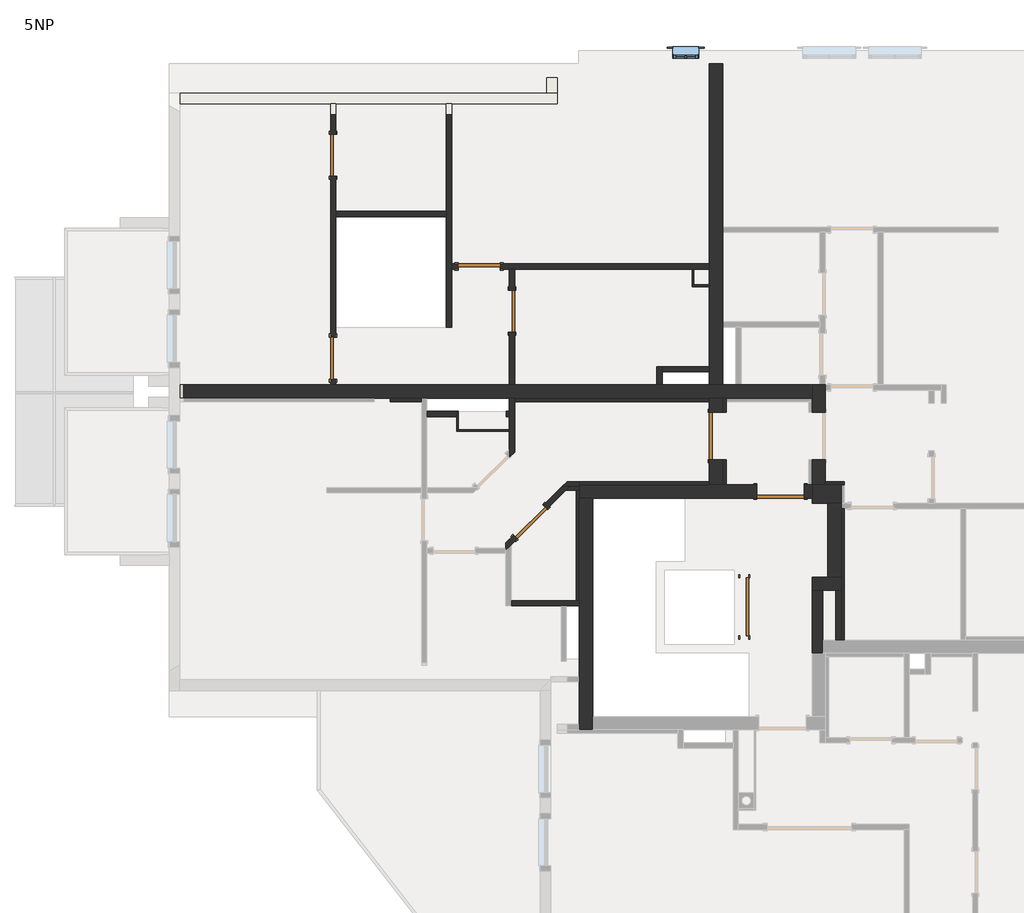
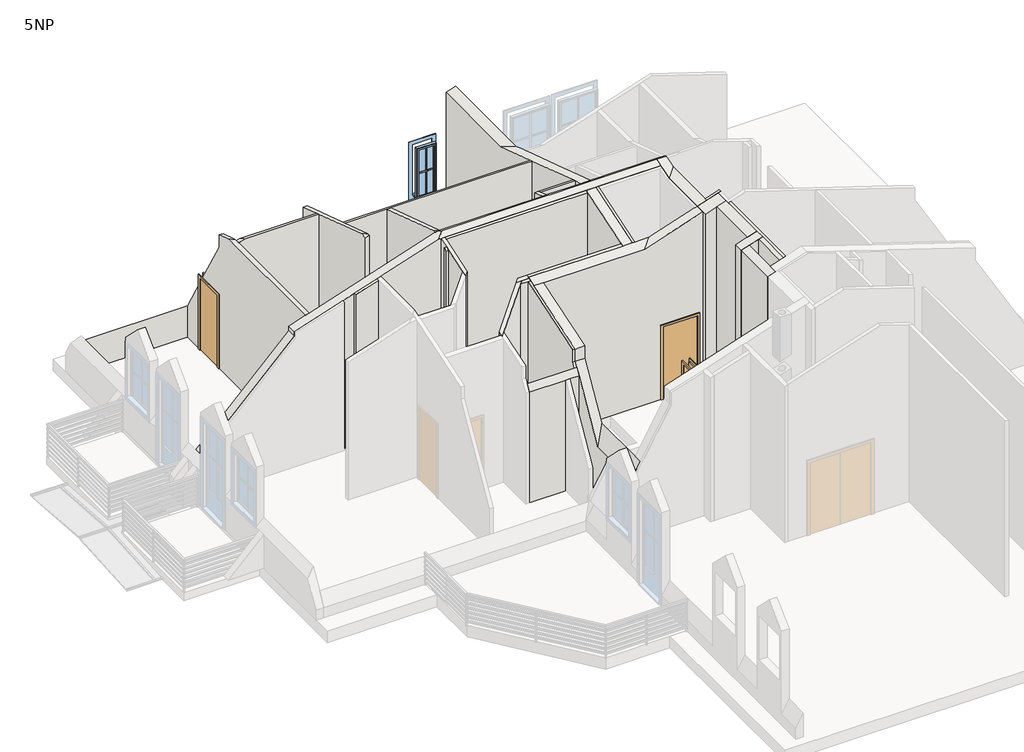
# One storey, part 3 of 4: 38 walls, 8 doors, 1 window.
"""IFC4 building model written with IfcOpenShell, lengths in millimetres."""

from ifc_helpers import new_model, si_unit, frame, origin, place, context, project, spatial, polyline, outline, extrude, faceted_brep, transform, mapped, element, save
from components import sd_1100x2000_1d62120a, sd_800x2000_6a16926d, sd_800x2000_80f4ff25, sd_900x2000_a6683946, sd_900x2000_4224ae2a, standard_window_with_mullions_cf772253

model = new_model("IFC4")

# Units and contexts
model_context = context("Model", 3, world=origin())
ifc_project = project(units=[si_unit("LENGTHUNIT", "METRE", prefix="MILLI")], contexts=[model_context])

# Site, building, storey
site = spatial("IfcSite", under=ifc_project)
building = spatial("IfcBuilding", under=site)
storey = spatial("IfcBuildingStorey", under=building, Name="5NP", Elevation=11800.0)

# Doors
placement = place(None, origin())
sd_1100x2000_shape = sd_1100x2000_1d62120a(model_context)
element("IfcDoor", 1, ObjectType="JednokridlePlne : SD 1100x2000", at=placement, inside=storey, context=model_context, shape_type="MappedRepresentation", body=[
    mapped(sd_1100x2000_shape, transform((277.8037835, 250.1290541, 11800.0), x_axis=(0.0, -1.0, 0.0), y_axis=(1.0, 0.0, 0.0), z_axis=(0.0, 0.0, 1.0))),
])
sd_800x2000_shape = sd_800x2000_6a16926d(model_context)
element("IfcDoor", 2, ObjectType="JednokridlePlne : SD 800x2000", at=placement, inside=storey, context=model_context, shape_type="MappedRepresentation", body=[
    mapped(sd_800x2000_shape, transform((-4137.1962165, 5871.7254016, 11800.0), x_axis=(0.0, 0.9999999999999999, 0.0), y_axis=(-0.9999999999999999, 0.0, 0.0), z_axis=(0.0, 0.0, 1.0))),
])
element("IfcDoor", 3, ObjectType="JednokridlePlne : SD 800x2000", at=placement, inside=storey, context=model_context, shape_type="MappedRepresentation", body=[
    mapped(sd_800x2000_shape, transform((-7537.1962165, 8831.4295669, 11800.0), x_axis=(0.0, -1.0, 0.0), y_axis=(1.0, 0.0, 0.0), z_axis=(0.0, 0.0, 1.0))),
])
sd_800x2000_2_shape = sd_800x2000_80f4ff25(model_context)
element("IfcDoor", 4, ObjectType="JednokridlePlne : SD 800x2000", at=placement, inside=storey, context=model_context, shape_type="MappedRepresentation", body=[
    mapped(sd_800x2000_2_shape, transform((-3790.7010875, 1863.413505, 11800.0), x_axis=(-0.7071067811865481, -0.7071067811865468, 0.0), y_axis=(0.7071067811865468, -0.7071067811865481, 0.0), z_axis=(0.0, 0.0, 1.0))),
])
element("IfcDoor", 5, ObjectType="JednokridlePlne : SD 800x2000", at=placement, inside=storey, context=model_context, shape_type="MappedRepresentation", body=[
    mapped(sd_800x2000_2_shape, transform((-7537.1962165, 4978.4889536, 11800.0), x_axis=(0.0, 1.0, 0.0), y_axis=(-1.0, 0.0, 0.0), z_axis=(0.0, 0.0, 1.0))),
])
element("IfcDoor", 6, ObjectType="JednokridlePlne : SD 800x2000", at=placement, inside=storey, context=model_context, shape_type="MappedRepresentation", body=[
    mapped(sd_800x2000_2_shape, transform((-4763.3256924, 6717.6290541, 11800.0), x_axis=(1.0, 0.0, 0.0), y_axis=(0.0, 1.0, 0.0), z_axis=(0.0, 0.0, 1.0))),
])
sd_900x2000_shape = sd_900x2000_a6683946(model_context)
element("IfcDoor", 7, ObjectType="JednokridlePlne : SD 900x2000", at=placement, inside=storey, context=model_context, shape_type="MappedRepresentation", body=[
    mapped(sd_900x2000_shape, transform((-262.1962165, 3497.5977832, 11800.0), x_axis=(0.0, -1.0, 0.0), y_axis=(1.0, 0.0, 0.0), z_axis=(0.0, 0.0, 1.0))),
])
sd_900x2000_2_shape = sd_900x2000_4224ae2a(model_context)
element("IfcDoor", 8, ObjectType="JednokridlePlne : SD 900x2000", at=placement, inside=storey, context=model_context, shape_type="MappedRepresentation", body=[
    mapped(sd_900x2000_2_shape, transform((965.3697901, 2442.6290541, 11800.0), x_axis=(-1.0, 0.0, 0.0), y_axis=(0.0, -1.0, 0.0), z_axis=(0.0, 0.0, 1.0))),
])

# Walls
element("IfcWall", 9, ObjectType="Exterior - 150+50mm", at=placement, inside=storey, context=model_context, shape_type="Brep", body=[
    faceted_brep([(-10456.4352243, 9807.6290541, 11800.0), (-7587.1962165, 9807.6290541, 11800.0), (-7487.1962165, 9807.6290541, 11800.0), (-5387.1962165, 9807.6290541, 11800.0), (-5287.1962165, 9807.6290541, 11800.0), (-3277.1962165, 9807.6290541, 11800.0), (-3277.1962165, 9807.6290541, 12667.9110615), (-5287.1962165, 9807.6290541, 12667.9110615), (-5387.1962165, 9807.6290541, 12667.9110615), (-7487.1962165, 9807.6290541, 12667.9110615), (-7587.1962165, 9807.6290541, 12667.9110615), (-10456.4352243, 9807.6290541, 12667.9110615), (-10456.4352243, 10007.6290541, 11800.0), (-10456.4352243, 10007.6290541, 12321.5009), (-3477.1962165, 10007.6290541, 12321.5009), (-3277.1962165, 10007.6290541, 12321.5009), (-3277.1962165, 10007.6290541, 11800.0), (-3477.1962165, 10007.6290541, 11800.0)], [[[0, 1, 2, 3, 4, 5, 6, 7, 8, 9, 10, 11]], [[12, 13, 14, 15, 16, 17]], [[5, 4, 3, 2, 1, 0, 12, 17, 16]], [[6, 5, 16, 15]], [[0, 11, 13, 12]], [[11, 10, 9, 8, 7, 6, 15, 14, 13]]]),
])
element("IfcWall", 10, ObjectType="Exterior - 150+50mm", at=placement, inside=storey, context=model_context, shape_type="SweptSolid", body=[
    extrude(outline(polyline([(10007.6290541, 11800.0), (10007.6290541, 12321.5009), (10308.7177391, 11800.0), (10007.6290541, 11800.0)])), frame((-3477.1962165, 0.0, 0.0), z_axis=(1.0, 0.0, 0.0), x_axis=(0.0, 1.0, 0.0)), (0.0, 0.0, 1.0), 200.0),
])
element("IfcWall", 11, ObjectType="Interior - 100mm", at=placement, inside=storey, context=model_context, shape_type="Brep", body=[
    faceted_brep([(-4187.1962165, 4217.6290541, 11800.0), (-4187.1962165, 3967.6290541, 11800.0), (-4187.1962165, 3867.6290541, 11800.0), (-4187.1962165, 3617.6290541, 11800.0), (-4187.1962165, 3587.6290541, 11800.0), (-4187.1962165, 3235.1475855, 11800.0), (-4187.1962165, 3094.8273477, 11800.0), (-4187.1962165, 3094.8273477, 16359.5045059), (-4187.1962165, 3235.1475855, 16405.097315), (-4187.1962165, 3867.6290541, 16610.6030016), (-4187.1962165, 3967.6290541, 16643.0949712), (-4187.1962165, 4217.6290541, 16724.3248953), (-4087.1962165, 4217.6290541, 11800.0), (-4087.1962165, 4217.6290541, 16724.3248953), (-4087.1962165, 4152.6290541, 16703.205115), (-4087.1962165, 3193.2639727, 16391.4885042), (-4087.1962165, 3193.2639727, 11800.0), (-4087.1962165, 4152.6290541, 11800.0)], [[[0, 1, 2, 3, 4, 5, 6, 7, 8, 9, 10, 11]], [[12, 13, 14, 15, 16, 17]], [[6, 5, 4, 3, 2, 1, 0, 12, 17, 16]], [[7, 6, 16, 15]], [[0, 11, 13, 12]], [[11, 10, 9, 8, 7, 15, 14, 13]]]),
])
element("IfcWall", 12, ObjectType="Interior - 100mm", at=placement, inside=storey, context=model_context, shape_type="Brep", body=[
    faceted_brep([(-2857.1962165, 2632.6290541, 11800.0), (-3092.1962165, 2632.6290541, 11800.0), (-3092.1962165, 2632.6290541, 16209.3271768), (-2857.1962165, 2632.6290541, 16209.3271768), (-2857.1962165, 2532.6290541, 11800.0), (-2857.1962165, 2532.6290541, 16176.8352071), (-3050.7748603, 2532.6290541, 16176.8352071), (-3192.1962165, 2532.6290541, 16176.8352071), (-3192.1962165, 2532.6290541, 11800.0), (-3050.7748603, 2532.6290541, 11800.0)], [[[0, 1, 2, 3]], [[4, 5, 6, 7, 8, 9]], [[1, 0, 4, 9, 8]], [[2, 1, 8, 7]], [[0, 3, 5, 4]], [[3, 2, 7, 6, 5]]]),
])
element("IfcWall", 13, ObjectType="Interior - 100mm", at=placement, inside=storey, context=model_context, shape_type="Brep", body=[
    faceted_brep([(-4108.899139, 1615.9261316, 13800.0), (-4108.899139, 1615.9261316, 11800.0), (-4257.1962165, 1467.6290541, 11800.0), (-4257.1962165, 1467.6290541, 15830.7957306), (-3192.1962165, 2532.6290541, 16176.8352071), (-3192.1962165, 2532.6290541, 11800.0), (-3543.2137141, 2181.6115566, 11800.0), (-3543.2137141, 2181.6115566, 13800.0), (-4257.1962165, 1326.2076978, 11800.0), (-4157.1962165, 1426.2076978, 11800.0), (-4038.1884609, 1545.2154535, 11800.0), (-4038.1884609, 1545.2154535, 13800.0), (-3472.5030359, 2110.9008784, 13800.0), (-3472.5030359, 2110.9008784, 11800.0), (-3115.7748603, 2467.6290541, 11800.0), (-3050.7748603, 2532.6290541, 11800.0), (-3050.7748603, 2532.6290541, 16176.8352071), (-3115.7748603, 2467.6290541, 16155.7154269), (-4157.1962165, 1426.2076978, 15817.3371162), (-4257.1962165, 1326.2076978, 15784.8451465), (-4257.1962165, 1367.6290541, 11800.0), (-4257.1962165, 1367.6290541, 15798.303761)], [[[0, 1, 2, 3, 4, 5, 6, 7]], [[8, 9, 10, 11, 12, 13, 14, 15, 16, 17, 18, 19]], [[2, 1, 10, 9, 8, 20]], [[6, 5, 15, 14, 13]], [[3, 2, 20, 8, 19, 21]], [[5, 4, 16, 15]], [[4, 3, 21, 19, 18, 17, 16]], [[11, 10, 1, 0]], [[12, 11, 0, 7]], [[13, 12, 7, 6]]]),
])
element("IfcWall", 14, ObjectType="Interior - 100mm", at=placement, inside=storey, context=model_context, shape_type="Brep", body=[
    faceted_brep([(-4157.1962165, 267.6290541, 11800.0), (-3207.1962165, 267.6290541, 11800.0), (-3107.1962165, 267.6290541, 11800.0), (-2857.1962165, 267.6290541, 11800.0), (-2857.1962165, 267.6290541, 14861.0362405), (-3107.1962165, 267.6290541, 14861.0362405), (-3207.1962165, 267.6290541, 14861.0362405), (-4157.1962165, 267.6290541, 14861.0362405), (-4157.1962165, 367.6290541, 11800.0), (-4157.1962165, 367.6290541, 15034.2413213), (-2922.1962165, 367.6290541, 15034.2413213), (-2857.1962165, 367.6290541, 15034.2413213), (-2857.1962165, 367.6290541, 11800.0), (-2922.1962165, 367.6290541, 11800.0)], [[[0, 1, 2, 3, 4, 5, 6, 7]], [[8, 9, 10, 11, 12, 13]], [[3, 2, 1, 0, 8, 13, 12]], [[0, 7, 9, 8]], [[4, 3, 12, 11]], [[7, 6, 5, 4, 11, 10, 9]]]),
])
element("IfcWall", 15, ObjectType="Interior - 100mm", at=placement, inside=storey, context=model_context, shape_type="SweptSolid", body=[
    extrude(outline(polyline([(3967.6290541, 16643.0949712), (3967.6290541, 11800.0), (3867.6290541, 11800.0), (3867.6290541, 16610.6030016), (3967.6290541, 16643.0949712)])), frame((-4252.0439618, 0.0, 0.0), z_axis=(1.0, 0.0, 0.0), x_axis=(0.0, 1.0, 0.0)), (0.0, 0.0, 1.0), 64.8477452),
])
element("IfcWall", 16, ObjectType="Interior - 100mm", at=placement, inside=storey, context=model_context, shape_type="Brep", body=[
    faceted_brep([(-7587.1962165, 9807.6290541, 12667.9110615), (-7587.1962165, 9807.6290541, 11800.0), (-7587.1962165, 9231.4295669, 11800.0), (-7587.1962165, 9231.4295669, 13665.9178486), (-7487.1962165, 9807.6290541, 11800.0), (-7487.1962165, 9807.6290541, 12667.9110615), (-7487.1962165, 9231.4295669, 13665.9178486), (-7487.1962165, 9231.4295669, 11800.0)], [[[0, 1, 2, 3]], [[4, 5, 6, 7]], [[1, 4, 7, 2]], [[1, 0, 5, 4]], [[5, 0, 3, 6]], [[3, 2, 7, 6]]]),
    faceted_brep([(-7587.1962165, 4467.6290541, 11800.0), (-7587.1962165, 4467.6290541, 15637.1643294), (-7587.1962165, 7937.3638174, 15637.1643294), (-7587.1962165, 8372.0175181, 15495.936781), (-7587.1962165, 8372.0175181, 15154.4631818), (-7587.1962165, 9154.0172007, 13800.0), (-7587.1962165, 8431.4295669, 13800.0), (-7587.1962165, 8431.4295669, 11800.0), (-7587.1962165, 5378.4889536, 11800.0), (-7587.1962165, 5378.4889536, 13800.0), (-7587.1962165, 4578.4889536, 13800.0), (-7587.1962165, 4578.4889536, 11800.0), (-7487.1962165, 4467.6290541, 15669.6562991), (-7487.1962165, 4467.6290541, 11800.0), (-7487.1962165, 4578.4889536, 11800.0), (-7487.1962165, 4578.4889536, 13800.0), (-7487.1962165, 5378.4889536, 13800.0), (-7487.1962165, 5378.4889536, 11800.0), (-7487.1962165, 7667.6290541, 11800.0), (-7487.1962165, 7767.6290541, 11800.0), (-7487.1962165, 8431.4295669, 11800.0), (-7487.1962165, 8431.4295669, 13800.0), (-7487.1962165, 9154.0172007, 13800.0), (-7487.1962165, 8372.0175181, 15154.4631818), (-7487.1962165, 8372.0175181, 15495.936781), (-7487.1962165, 7837.3638174, 15669.6562991), (-7487.1962165, 7767.6290541, 15669.6562991), (-7487.1962165, 7667.6290541, 15669.6562991)], [[[0, 1, 2, 3, 4, 5, 6, 7, 8, 9, 10, 11]], [[12, 13, 14, 15, 16, 17, 18, 19, 20, 21, 22, 23, 24, 25, 26, 27]], [[13, 0, 11, 14]], [[17, 8, 7, 20, 19, 18]], [[1, 0, 13, 12]], [[4, 3, 24, 23]], [[4, 23, 22, 5]], [[24, 3, 2, 25]], [[1, 12, 27, 26, 25, 2]], [[9, 8, 17, 16]], [[10, 9, 16, 15]], [[11, 10, 15, 14]], [[6, 21, 20, 7]], [[21, 6, 5, 22]]]),
])
element("IfcWall", 17, ObjectType="Interior - 100mm", at=placement, inside=storey, context=model_context, shape_type="Brep", body=[
    faceted_brep([(-7487.1962165, 7667.6290541, 11800.0), (-5387.1962165, 7667.6290541, 11800.0), (-5387.1962165, 7667.6290541, 15724.8064668), (-7317.4614532, 7667.6290541, 15724.8064668), (-7487.1962165, 7667.6290541, 15669.6562991), (-7487.1962165, 7767.6290541, 11800.0), (-7487.1962165, 7767.6290541, 15669.6562991), (-7417.4614532, 7767.6290541, 15692.3144972), (-5387.1962165, 7767.6290541, 15692.3144972), (-5387.1962165, 7767.6290541, 11800.0)], [[[0, 1, 2, 3, 4]], [[5, 6, 7, 8, 9]], [[1, 0, 5, 9]], [[0, 4, 6, 5]], [[2, 1, 9, 8]], [[4, 3, 7, 6]], [[3, 2, 8, 7]]]),
])
element("IfcWall", 18, ObjectType="Interior - 100mm", at=placement, inside=storey, context=model_context, shape_type="Brep", body=[
    faceted_brep([(-5287.1962165, 5567.6290541, 11800.0), (-5287.1962165, 6667.6290541, 11800.0), (-5287.1962165, 6767.6290541, 11800.0), (-5287.1962165, 9807.6290541, 11800.0), (-5287.1962165, 9807.6290541, 12667.9110615), (-5287.1962165, 8372.0175181, 15154.4631818), (-5287.1962165, 8372.0175181, 15495.936781), (-5287.1962165, 6767.6290541, 16017.2341934), (-5287.1962165, 6667.6290541, 16049.726163), (-5287.1962165, 5637.3638174, 16384.4796308), (-5287.1962165, 5567.6290541, 16384.4796308), (-5387.1962165, 5567.6290541, 11800.0), (-5387.1962165, 5567.6290541, 16351.9876611), (-5387.1962165, 5737.3638174, 16351.9876611), (-5387.1962165, 7667.6290541, 15724.8064668), (-5387.1962165, 7767.6290541, 15692.3144972), (-5387.1962165, 8372.0175181, 15495.936781), (-5387.1962165, 8372.0175181, 15154.4631818), (-5387.1962165, 9807.6290541, 12667.9110615), (-5387.1962165, 9807.6290541, 11800.0), (-5387.1962165, 7767.6290541, 11800.0), (-5387.1962165, 7667.6290541, 11800.0)], [[[0, 1, 2, 3, 4, 5, 6, 7, 8, 9, 10]], [[11, 12, 13, 14, 15, 16, 17, 18, 19, 20, 21]], [[3, 2, 1, 0, 11, 21, 20, 19]], [[0, 10, 12, 11]], [[4, 3, 19, 18]], [[5, 17, 16, 6]], [[5, 4, 18, 17]], [[10, 9, 13, 12]], [[9, 8, 7, 6, 16, 15, 14, 13]]]),
])
element("IfcWall", 19, ObjectType="Interior - 100mm", at=placement, inside=storey, context=model_context, shape_type="Brep", body=[
    faceted_brep([(-4363.3256924, 6667.6290541, 13800.0), (-4363.3256924, 6667.6290541, 11800.0), (-4187.1962165, 6667.6290541, 11800.0), (-4087.1962165, 6667.6290541, 11800.0), (-717.1962165, 6667.6290541, 11800.0), (-687.1962165, 6667.6290541, 11800.0), (-387.1962165, 6667.6290541, 11800.0), (-387.1962165, 6667.6290541, 16049.726163), (-687.1962165, 6667.6290541, 16049.726163), (-4087.1962165, 6667.6290541, 16049.726163), (-4187.1962165, 6667.6290541, 16049.726163), (-5287.1962165, 6667.6290541, 16049.726163), (-5287.1962165, 6667.6290541, 11800.0), (-5163.3256924, 6667.6290541, 11800.0), (-5163.3256924, 6667.6290541, 13800.0), (-387.1962165, 6767.6290541, 11800.0), (-4363.3256924, 6767.6290541, 11800.0), (-4363.3256924, 6767.6290541, 13800.0), (-5163.3256924, 6767.6290541, 13800.0), (-5163.3256924, 6767.6290541, 11800.0), (-5287.1962165, 6767.6290541, 11800.0), (-5287.1962165, 6767.6290541, 16017.2341934), (-387.1962165, 6767.6290541, 16017.2341934)], [[[0, 1, 2, 3, 4, 5, 6, 7, 8, 9, 10, 11, 12, 13, 14]], [[15, 16, 17, 18, 19, 20, 21, 22]], [[6, 5, 4, 3, 2, 1, 16, 15]], [[13, 12, 20, 19]], [[12, 11, 21, 20]], [[7, 6, 15, 22]], [[11, 10, 9, 8, 7, 22, 21]], [[17, 16, 1, 0]], [[18, 17, 0, 14]], [[19, 18, 14, 13]]]),
])
element("IfcWall", 20, ObjectType="Interior - 100mm", at=placement, inside=storey, context=model_context, shape_type="Brep", body=[
    faceted_brep([(-4087.1962165, 6271.7254016, 13800.0), (-4087.1962165, 6271.7254016, 11800.0), (-4087.1962165, 6667.6290541, 11800.0), (-4087.1962165, 6667.6290541, 16049.726163), (-4087.1962165, 4467.6290541, 16764.5494947), (-4087.1962165, 4467.6290541, 11800.0), (-4087.1962165, 5471.7254016, 11800.0), (-4087.1962165, 5471.7254016, 13800.0), (-4187.1962165, 6667.6290541, 11800.0), (-4187.1962165, 6271.7254016, 11800.0), (-4187.1962165, 6271.7254016, 13800.0), (-4187.1962165, 5471.7254016, 13800.0), (-4187.1962165, 5471.7254016, 11800.0), (-4187.1962165, 4467.6290541, 11800.0), (-4187.1962165, 4467.6290541, 16741.8912966), (-4187.1962165, 4537.3638174, 16741.8912966), (-4187.1962165, 6667.6290541, 16049.726163), (-4117.4614532, 4467.6290541, 16764.5494947)], [[[0, 1, 2, 3, 4, 5, 6, 7]], [[8, 9, 10, 11, 12, 13, 14, 15, 16]], [[2, 1, 9, 8]], [[6, 5, 13, 12]], [[5, 4, 17, 14, 13]], [[3, 2, 8, 16]], [[4, 3, 16, 15, 17]], [[15, 14, 17]], [[10, 9, 1, 0]], [[11, 10, 0, 7]], [[12, 11, 7, 6]]]),
])
element("IfcWall", 21, ObjectType="Interior - 100mm", at=placement, inside=storey, context=model_context, shape_type="Brep", body=[
    faceted_brep([(-1287.1962165, 4467.6290541, 11800.0), (-1287.1962165, 4717.6290541, 11800.0), (-1287.1962165, 4817.6290541, 11800.0), (-1287.1962165, 4817.6290541, 16650.8276011), (-1287.1962165, 4717.6290541, 16683.3195707), (-1287.1962165, 4467.6290541, 16764.5494947), (-1387.1962165, 4467.6290541, 11800.0), (-1387.1962165, 4467.6290541, 16764.5494947), (-1387.1962165, 4817.6290541, 16650.8276011), (-1387.1962165, 4817.6290541, 11800.0)], [[[0, 1, 2, 3, 4, 5]], [[6, 7, 8, 9]], [[2, 1, 0, 6, 9]], [[3, 2, 9, 8]], [[0, 5, 7, 6]], [[5, 4, 3, 8, 7]]]),
])
element("IfcWall", 22, ObjectType="Interior - 100mm", at=placement, inside=storey, context=model_context, shape_type="SweptSolid", body=[
    extrude(outline(polyline([(4717.6290541, 11800.0), (4717.6290541, 16683.3195707), (4817.6290541, 16650.8276011), (4817.6290541, 11800.0), (4717.6290541, 11800.0)])), frame((-1287.1962165, 0.0, 0.0), z_axis=(1.0, 0.0, 0.0), x_axis=(0.0, 1.0, 0.0)), (0.0, 0.0, 1.0), 900.0),
])
element("IfcWall", 23, ObjectType="Interior - 100mm", at=placement, inside=storey, context=model_context, shape_type="SweptSolid", body=[
    extrude(outline(polyline([(16748.3035099, 2012.8037835), (11800.0, 2012.8037835), (11800.0, 2112.8037835), (16780.7954795, 2112.8037835), (16748.3035099, 2012.8037835)])), frame((0.0, -382.3709459, 0.0), z_axis=(0.0, 1.0, 0.0), x_axis=(0.0, 0.0, 1.0)), (0.0, 0.0, 1.0), 950.0),
])
element("IfcWall", 24, ObjectType="Interior - 100mm", at=placement, inside=storey, context=model_context, shape_type="SweptSolid", body=[
    extrude(outline(polyline([(-5187.1962165, 3867.6290541), (-5757.1962165, 3867.6290541), (-5757.1962165, 3967.6290541), (-5187.1962165, 3967.6290541), (-5187.1962165, 3867.6290541)])), frame((0.0, 0.0, 11800.0), z_axis=(0.0, 0.0, 1.0), x_axis=(1.0, 0.0, 0.0)), (0.0, 0.0, 1.0), 2950.0),
])
element("IfcWall", 25, ObjectType="Interior - 200mm", at=placement, inside=storey, context=model_context, shape_type="Brep", body=[
    faceted_brep([(1762.8059596, -632.3709459, 11800.0), (1762.8055844, -382.3709459, 11800.0), (1762.8041587, 567.6290541, 11800.0), (1762.8041587, 567.6290541, 16667.0737078), (1762.8055844, -382.3709459, 16667.074171), (1762.8059596, -632.3709459, 16667.0742929), (1562.8059596, -632.3709459, 11800.0), (1562.8059596, -632.3709459, 16602.0903537), (1562.8041587, 567.6290541, 16602.0897685), (1562.8041587, 567.6290541, 11800.0)], [[[0, 1, 2, 3, 4, 5]], [[6, 7, 8, 9]], [[2, 1, 0, 6, 9]], [[0, 5, 7, 6]], [[3, 2, 9, 8]], [[5, 4, 3, 8, 7]]]),
])
element("IfcWall", 26, ObjectType="Interior - 250mm", at=placement, inside=storey, context=model_context, shape_type="Brep", body=[
    faceted_brep([(-2857.1962165, 2317.6290541, 11800.0), (-2607.1962165, 2317.6290541, 11800.0), (515.3697901, 2317.6290541, 11800.0), (515.3697901, 2317.6290541, 13800.0), (1415.3697901, 2317.6290541, 13800.0), (1415.3697901, 2317.6290541, 11800.0), (1562.8037835, 2317.6290541, 11800.0), (1562.8037835, 2317.6290541, 16602.0896466), (39.0051959, 2317.6290541, 16106.9774724), (-2607.1962165, 2317.6290541, 16106.9774724), (-2857.1962165, 2317.6290541, 16106.9774724), (515.3697901, 2567.6290541, 13800.0), (515.3697901, 2567.6290541, 11800.0), (-72.1962165, 2567.6290541, 11800.0), (-137.1962165, 2567.6290541, 11800.0), (-387.1962165, 2567.6290541, 11800.0), (-2857.1962165, 2567.6290541, 11800.0), (-2857.1962165, 2567.6290541, 16188.2073965), (-387.1962165, 2567.6290541, 16188.2073965), (-137.1962165, 2567.6290541, 16188.2073965), (-72.1962165, 2567.6290541, 16188.2073965), (289.0051959, 2567.6290541, 16188.2073965), (1497.8037835, 2567.6290541, 16580.9698664), (1562.8037835, 2567.6290541, 16602.0896466), (1562.8037835, 2567.6290541, 11800.0), (1497.8037835, 2567.6290541, 11800.0), (1415.3697901, 2567.6290541, 11800.0), (1415.3697901, 2567.6290541, 13800.0)], [[[0, 1, 2, 3, 4, 5, 6, 7, 8, 9, 10]], [[11, 12, 13, 14, 15, 16, 17, 18, 19, 20, 21, 22, 23, 24, 25, 26, 27]], [[16, 15, 14, 13, 12, 2, 1, 0]], [[26, 25, 24, 6, 5]], [[0, 10, 17, 16]], [[7, 6, 24, 23]], [[10, 9, 8, 21, 20, 19, 18, 17]], [[8, 7, 23, 22, 21]], [[3, 2, 12, 11]], [[4, 3, 11, 27]], [[5, 4, 27, 26]]]),
])
element("IfcWall", 27, ObjectType="Interior - 250mm", at=placement, inside=storey, context=model_context, shape_type="Brep", body=[
    faceted_brep([(-2857.1962165, 2317.6290541, 11800.0), (-2857.1962165, 367.6290541, 11800.0), (-2857.1962165, 267.6290541, 11800.0), (-2857.1962165, -732.3709459, 11800.0), (-2857.1962165, -1072.3709459, 11800.0), (-2857.1962165, -1172.3709459, 11800.0), (-2857.1962165, -1982.3709459, 11800.0), (-2857.1962165, -2082.3709459, 11800.0), (-2857.1962165, -2082.3709459, 13395.3724007), (-2857.1962165, -1982.3709459, 13395.3724007), (-2857.1962165, -1172.3709459, 13395.3724007), (-2857.1962165, -1072.3709459, 13395.3724007), (-2857.1962165, -578.5723584, 13395.3724007), (-2857.1962165, 267.6290541, 14861.0362405), (-2857.1962165, 367.6290541, 15034.2413213), (-2857.1962165, 437.0391776, 15154.4631818), (-2857.1962165, 437.0391776, 15495.936781), (-2857.1962165, 2317.6290541, 16106.9774724), (-2607.1962165, 2317.6290541, 11800.0), (-2607.1962165, 2317.6290541, 16106.9774724), (-2607.1962165, 437.0391776, 15495.936781), (-2607.1962165, 437.0391776, 15154.4631818), (-2607.1962165, -328.5723584, 13828.3851026), (-2607.1962165, -1832.3709459, 13828.3851026), (-2607.1962165, -2082.3709459, 13828.3851026), (-2607.1962165, -2082.3709459, 11800.0), (-2607.1962165, -1832.3709459, 11800.0)], [[[0, 1, 2, 3, 4, 5, 6, 7, 8, 9, 10, 11, 12, 13, 14, 15, 16, 17]], [[18, 19, 20, 21, 22, 23, 24, 25, 26]], [[7, 6, 5, 4, 3, 2, 1, 0, 18, 26, 25]], [[8, 7, 25, 24]], [[0, 17, 19, 18]], [[15, 21, 20, 16]], [[15, 14, 13, 12, 22, 21]], [[12, 11, 10, 9, 8, 24, 23, 22]], [[17, 16, 20, 19]]]),
])
element("IfcWall", 28, ObjectType="Interior - 250mm", at=placement, inside=storey, context=model_context, shape_type="Brep", body=[
    faceted_brep([(1562.8041587, 567.6290541, 11800.0), (1762.8041587, 567.6290541, 11800.0), (2012.8037835, 567.6290541, 11800.0), (2112.8037835, 567.6290541, 11800.0), (2112.8037835, 567.6290541, 16780.7954795), (2012.8037835, 567.6290541, 16748.3035099), (1762.8041587, 567.6290541, 16667.0737078), (1562.8041587, 567.6290541, 16602.0897685), (1562.8037835, 817.6290541, 11800.0), (1562.8037835, 817.6290541, 16602.0896466), (1862.8037835, 817.6290541, 16699.5655555), (2112.8037835, 817.6290541, 16780.7954795), (2112.8037835, 817.6290541, 11800.0), (1862.8037835, 817.6290541, 11800.0)], [[[0, 1, 2, 3, 4, 5, 6, 7]], [[8, 9, 10, 11, 12, 13]], [[3, 2, 1, 0, 8, 13, 12]], [[0, 7, 9, 8]], [[4, 3, 12, 11]], [[7, 6, 5, 4, 11, 10, 9]]]),
])
element("IfcWall", 29, ObjectType="Interior - 250mm", at=placement, inside=storey, context=model_context, shape_type="Brep", body=[
    faceted_brep([(2112.8037835, 817.6290541, 11800.0), (2112.8037835, 2116.2076978, 11800.0), (2112.8037835, 2216.2076978, 11800.0), (2112.8037835, 2217.6290541, 11800.0), (2112.8037835, 2217.6290541, 16780.7954795), (2112.8037835, 2216.2076978, 16780.7954795), (2112.8037835, 2116.2076978, 16780.7954795), (2112.8037835, 817.6290541, 16780.7954795), (1862.8037835, 817.6290541, 11800.0), (1862.8037835, 817.6290541, 16699.5655555), (1862.8037835, 2217.6290541, 16699.5655555), (1862.8037835, 2217.6290541, 11800.0)], [[[0, 1, 2, 3, 4, 5, 6, 7]], [[8, 9, 10, 11]], [[3, 2, 1, 0, 8, 11]], [[0, 7, 9, 8]], [[4, 3, 11, 10]], [[7, 6, 5, 4, 10, 9]]]),
])
element("IfcWall", 30, ObjectType="Interior - 250mm", at=placement, inside=storey, context=model_context, shape_type="Brep", body=[
    faceted_brep([(1812.8037835, 2567.6290541, 11800.0), (1812.8037835, 2632.6290541, 11800.0), (1812.8037835, 3047.5977832, 11800.0), (1812.8037835, 3047.5977832, 13800.0), (1812.8037835, 3947.5977832, 13800.0), (1812.8037835, 3947.5977832, 11800.0), (1812.8037835, 4367.6290541, 11800.0), (1812.8037835, 4467.6290541, 11800.0), (1812.8037835, 4467.6290541, 16764.5494947), (1812.8037835, 4404.5283479, 16785.052157), (1812.8037835, 4367.6290541, 16773.0628497), (1812.8037835, 4091.4276416, 16683.3195707), (1812.8037835, 2632.6290541, 16683.3195707), (1812.8037835, 2567.6290541, 16683.3195707), (1562.8037835, 3047.5977832, 13800.0), (1562.8037835, 3047.5977832, 11800.0), (1562.8037835, 2567.6290541, 11800.0), (1562.8037835, 2567.6290541, 16602.0896466), (1562.8037835, 3841.4276416, 16602.0896466), (1562.8037835, 4152.6290541, 16703.205115), (1562.8037835, 4217.6290541, 16724.3248953), (1562.8037835, 4404.5283479, 16785.052157), (1562.8037835, 4467.6290541, 16764.5494947), (1562.8037835, 4467.6290541, 11800.0), (1562.8037835, 4217.6290541, 11800.0), (1562.8037835, 4152.6290541, 11800.0), (1562.8037835, 3947.5977832, 11800.0), (1562.8037835, 3947.5977832, 13800.0), (1712.8037835, 4467.6290541, 11800.0), (1712.8037835, 4467.6290541, 16764.5494947)], [[[0, 1, 2, 3, 4, 5, 6, 7, 8, 9, 10, 11, 12, 13]], [[14, 15, 16, 17, 18, 19, 20, 21, 22, 23, 24, 25, 26, 27]], [[16, 15, 2, 1, 0]], [[26, 25, 24, 23, 28, 7, 6, 5]], [[8, 7, 28, 23, 22, 29]], [[0, 13, 17, 16]], [[13, 12, 11, 18, 17]], [[11, 10, 9, 21, 20, 19, 18]], [[9, 8, 29, 22, 21]], [[3, 2, 15, 14]], [[4, 3, 14, 27]], [[5, 4, 27, 26]]]),
])
element("IfcWall", 31, ObjectType="Interior - 250mm", at=placement, inside=storey, context=model_context, shape_type="Brep", body=[
    faceted_brep([(1562.8037835, 4467.6290541, 11800.0), (212.8037835, 4467.6290541, 11800.0), (112.8037835, 4467.6290541, 11800.0), (-137.1962165, 4467.6290541, 11800.0), (-387.1962165, 4467.6290541, 11800.0), (-1287.1962165, 4467.6290541, 11800.0), (-1387.1962165, 4467.6290541, 11800.0), (-4087.1962165, 4467.6290541, 11800.0), (-4187.1962165, 4467.6290541, 11800.0), (-7487.1962165, 4467.6290541, 11800.0), (-7587.1962165, 4467.6290541, 11800.0), (-10456.4352243, 4467.6290541, 11800.0), (-10456.4352243, 4467.6290541, 12930.7609923), (-8021.8499172, 4467.6290541, 15365.3462993), (-8021.8499172, 4467.6290541, 15495.936781), (-7587.1962165, 4467.6290541, 15637.1643294), (-7487.1962165, 4467.6290541, 15669.6562991), (-4187.1962165, 4467.6290541, 16741.8912966), (-4117.4614532, 4467.6290541, 16764.5494947), (-4087.1962165, 4467.6290541, 16764.5494947), (-1387.1962165, 4467.6290541, 16764.5494947), (-1287.1962165, 4467.6290541, 16764.5494947), (-387.1962165, 4467.6290541, 16764.5494947), (-137.1962165, 4467.6290541, 16764.5494947), (112.8037835, 4467.6290541, 16764.5494947), (212.8037835, 4467.6290541, 16764.5494947), (1562.8037835, 4467.6290541, 16764.5494947), (1562.8037835, 4217.6290541, 11800.0), (1562.8037835, 4217.6290541, 16724.3248953), (-72.1962165, 4217.6290541, 16724.3248953), (-137.1962165, 4217.6290541, 16724.3248953), (-387.1962165, 4217.6290541, 16724.3248953), (-4087.1962165, 4217.6290541, 16724.3248953), (-4187.1962165, 4217.6290541, 16724.3248953), (-4241.2600407, 4217.6290541, 16724.3248953), (-5757.1962165, 4217.6290541, 16231.7673735), (-5857.1962165, 4217.6290541, 16199.2754039), (-8021.8499172, 4217.6290541, 15495.936781), (-8021.8499172, 4217.6290541, 15365.3462993), (-10456.4352243, 4217.6290541, 12930.7609923), (-10456.4352243, 4217.6290541, 11800.0), (-5857.1962165, 4217.6290541, 11800.0), (-5757.1962165, 4217.6290541, 11800.0), (-4187.1962165, 4217.6290541, 11800.0), (-4087.1962165, 4217.6290541, 11800.0), (-387.1962165, 4217.6290541, 11800.0), (-137.1962165, 4217.6290541, 11800.0), (-72.1962165, 4217.6290541, 11800.0), (1562.8037835, 4404.5283479, 16785.052157), (-4054.360747, 4404.5283479, 16785.052157)], [[[0, 1, 2, 3, 4, 5, 6, 7, 8, 9, 10, 11, 12, 13, 14, 15, 16, 17, 18, 19, 20, 21, 22, 23, 24, 25, 26]], [[27, 28, 29, 30, 31, 32, 33, 34, 35, 36, 37, 38, 39, 40, 41, 42, 43, 44, 45, 46, 47]], [[11, 10, 9, 8, 7, 6, 5, 4, 3, 2, 1, 0, 27, 47, 46, 45, 44, 43, 42, 41, 40]], [[12, 11, 40, 39]], [[0, 26, 48, 28, 27]], [[13, 38, 37, 14]], [[13, 12, 39, 38]], [[26, 25, 24, 23, 22, 21, 20, 19, 18, 49, 48]], [[18, 17, 16, 15, 14, 37, 36, 35, 34, 49]], [[34, 33, 32, 31, 30, 29, 28, 48, 49]]]),
])
element("IfcWall", 32, ObjectType="Interior - 250mm", at=placement, inside=storey, context=model_context, shape_type="Brep", body=[
    faceted_brep([(-387.1962165, 3047.5977832, 13800.0), (-387.1962165, 3047.5977832, 11800.0), (-387.1962165, 2632.6290541, 11800.0), (-387.1962165, 2567.6290541, 11800.0), (-387.1962165, 2567.6290541, 16188.2073965), (-387.1962165, 2632.6290541, 16209.3271768), (-387.1962165, 4152.6290541, 16703.205115), (-387.1962165, 4217.6290541, 16724.3248953), (-387.1962165, 4217.6290541, 11800.0), (-387.1962165, 4152.6290541, 11800.0), (-387.1962165, 3947.5977832, 11800.0), (-387.1962165, 3947.5977832, 13800.0), (-137.1962165, 2567.6290541, 11800.0), (-137.1962165, 3047.5977832, 11800.0), (-137.1962165, 3047.5977832, 13800.0), (-137.1962165, 3947.5977832, 13800.0), (-137.1962165, 3947.5977832, 11800.0), (-137.1962165, 4217.6290541, 11800.0), (-137.1962165, 4217.6290541, 16724.3248953), (-137.1962165, 2567.6290541, 16188.2073965)], [[[0, 1, 2, 3, 4, 5, 6, 7, 8, 9, 10, 11]], [[12, 13, 14, 15, 16, 17, 18, 19]], [[3, 2, 1, 13, 12]], [[10, 9, 8, 17, 16]], [[4, 3, 12, 19]], [[8, 7, 18, 17]], [[7, 6, 5, 4, 19, 18]], [[14, 13, 1, 0]], [[15, 14, 0, 11]], [[16, 15, 11, 10]]]),
])
element("IfcWall", 33, ObjectType="Interior - 250mm", at=placement, inside=storey, context=model_context, shape_type="Brep", body=[
    faceted_brep([(-387.1962165, 10567.6290541, 11800.0), (-387.1962165, 6767.6290541, 11800.0), (-387.1962165, 6667.6290541, 11800.0), (-387.1962165, 6367.6290541, 11800.0), (-387.1962165, 6337.6290541, 11800.0), (-387.1962165, 4817.6290541, 11800.0), (-387.1962165, 4717.6290541, 11800.0), (-387.1962165, 4467.6290541, 11800.0), (-387.1962165, 4467.6290541, 16764.5494947), (-387.1962165, 4717.6290541, 16683.3195707), (-387.1962165, 4817.6290541, 16650.8276011), (-387.1962165, 6367.6290541, 16147.2020719), (-387.1962165, 6667.6290541, 16049.726163), (-387.1962165, 6767.6290541, 16017.2341934), (-387.1962165, 8087.6290541, 15588.3401944), (-387.1962165, 10567.6290541, 15588.3401944), (-137.1962165, 10567.6290541, 11800.0), (-137.1962165, 10567.6290541, 15669.5701184), (-137.1962165, 7837.6290541, 15669.5701184), (-137.1962165, 7467.6290541, 15789.790406), (-137.1962165, 7367.6290541, 15822.2823757), (-137.1962165, 5667.6290541, 16374.6458593), (-137.1962165, 5567.6290541, 16407.1378289), (-137.1962165, 4467.6290541, 16764.5494947), (-137.1962165, 4467.6290541, 11800.0), (-137.1962165, 5567.6290541, 11800.0), (-137.1962165, 5667.6290541, 11800.0), (-137.1962165, 7367.6290541, 11800.0), (-137.1962165, 7467.6290541, 11800.0)], [[[0, 1, 2, 3, 4, 5, 6, 7, 8, 9, 10, 11, 12, 13, 14, 15]], [[16, 17, 18, 19, 20, 21, 22, 23, 24, 25, 26, 27, 28]], [[7, 6, 5, 4, 3, 2, 1, 0, 16, 28, 27, 26, 25, 24]], [[8, 7, 24, 23]], [[0, 15, 17, 16]], [[15, 14, 18, 17]], [[14, 13, 12, 11, 10, 9, 8, 23, 22, 21, 20, 19, 18]]]),
])
element("IfcWall", 34, ObjectType="Interior - 300mm", at=placement, inside=storey, context=model_context, shape_type="Brep", body=[
    faceted_brep([(-387.1962165, 6367.6290541, 11800.0), (-687.1962165, 6367.6290541, 11800.0), (-717.1962165, 6367.6290541, 11800.0), (-717.1962165, 6367.6290541, 14750.0), (-687.1962165, 6367.6290541, 14750.0), (-387.1962165, 6367.6290541, 14750.0), (-387.1962165, 6337.6290541, 11800.0), (-387.1962165, 6337.6290541, 14750.0), (-717.1962165, 6337.6290541, 14750.0), (-717.1962165, 6337.6290541, 11800.0)], [[[0, 1, 2, 3, 4, 5]], [[6, 7, 8, 9]], [[2, 1, 0, 6, 9]], [[5, 4, 3, 8, 7]], [[3, 2, 9, 8]], [[0, 5, 7, 6]]]),
])
element("IfcWall", 35, ObjectType="Interior - 300mm", at=placement, inside=storey, context=model_context, shape_type="SweptSolid", body=[
    extrude(outline(polyline([(-687.1962165, 6667.6290541), (-687.1962165, 6367.6290541), (-717.1962165, 6367.6290541), (-717.1962165, 6667.6290541), (-687.1962165, 6667.6290541)])), frame((0.0, 0.0, 11800.0), z_axis=(0.0, 0.0, 1.0), x_axis=(1.0, 0.0, 0.0)), (0.0, 0.0, 1.0), 2950.0),
])
element("IfcWall", 36, ObjectType="Interior - 300mm", at=placement, inside=storey, context=model_context, shape_type="Brep", body=[
    faceted_brep([(-5187.1962165, 3967.6290541, 11800.0), (-5187.1962165, 3867.6290541, 11800.0), (-5187.1962165, 3587.6290541, 11800.0), (-5187.1962165, 3587.6290541, 14750.0), (-5187.1962165, 3867.6290541, 14750.0), (-5187.1962165, 3967.6290541, 14750.0), (-5157.1962165, 3967.6290541, 11800.0), (-5157.1962165, 3967.6290541, 14750.0), (-5157.1962165, 3617.6290541, 14750.0), (-5157.1962165, 3587.6290541, 14750.0), (-5157.1962165, 3587.6290541, 11800.0), (-5157.1962165, 3617.6290541, 11800.0)], [[[0, 1, 2, 3, 4, 5]], [[6, 7, 8, 9, 10, 11]], [[2, 1, 0, 6, 11, 10]], [[5, 4, 3, 9, 8, 7]], [[3, 2, 10, 9]], [[0, 5, 7, 6]]]),
])
element("IfcWall", 37, ObjectType="Interior - 300mm", at=placement, inside=storey, context=model_context, shape_type="SweptSolid", body=[
    extrude(outline(polyline([(-4187.1962165, 3587.6290541), (-5157.1962165, 3587.6290541), (-5157.1962165, 3617.6290541), (-4187.1962165, 3617.6290541), (-4187.1962165, 3587.6290541)])), frame((0.0, 0.0, 11800.0), z_axis=(0.0, 0.0, 1.0), x_axis=(1.0, 0.0, 0.0)), (0.0, 0.0, 1.0), 2950.0),
])
element("IfcWall", 38, ObjectType="Interior - 350mm", at=placement, inside=storey, context=model_context, shape_type="Brep", body=[
    faceted_brep([(2112.8037835, 2567.6290541, 11800.0), (1812.8037835, 2567.6290541, 11800.0), (1562.8037835, 2567.6290541, 11800.0), (1562.8037835, 2567.6290541, 16602.0896466), (1812.8037835, 2567.6290541, 16683.3195707), (2112.8037835, 2567.6290541, 16780.7954795), (2112.8037835, 2217.6290541, 11800.0), (2112.8037835, 2217.6290541, 16780.7954795), (1862.8037835, 2217.6290541, 16699.5655555), (1562.8037835, 2217.6290541, 16602.0896466), (1562.8037835, 2217.6290541, 11800.0), (1862.8037835, 2217.6290541, 11800.0), (1562.8037835, 2317.6290541, 11800.0), (1562.8037835, 2317.6290541, 16602.0896466)], [[[0, 1, 2, 3, 4, 5]], [[6, 7, 8, 9, 10, 11]], [[2, 1, 0, 6, 11, 10, 12]], [[0, 5, 7, 6]], [[3, 2, 12, 10, 9, 13]], [[5, 4, 3, 13, 9, 8, 7]]]),
])
element("IfcWall", 39, ObjectType="Interior - 65mm", at=placement, inside=storey, context=model_context, shape_type="SweptSolid", body=[
    extrude(outline(polyline([(11800.0, -6457.1962165), (11800.0, -5857.1962165), (16199.2754039, -5857.1962165), (16004.3235862, -6457.1962165), (11800.0, -6457.1962165)])), frame((0.0, 4152.6290541, 0.0), z_axis=(0.0, 1.0, 0.0), x_axis=(0.0, 0.0, 1.0)), (0.0, 0.0, 1.0), 65.0),
])
element("IfcWall", 40, ObjectType="Interior - 65mm", at=placement, inside=storey, context=model_context, shape_type="SweptSolid", body=[
    extrude(outline(polyline([(2567.6290541, 11800.0), (2567.6290541, 16188.2073965), (2632.6290541, 16209.3271768), (2632.6290541, 11800.0), (2567.6290541, 11800.0)])), frame((-2857.1962165, 0.0, 0.0), z_axis=(1.0, 0.0, 0.0), x_axis=(0.0, 1.0, 0.0)), (0.0, 0.0, 1.0), 2470.0),
])
element("IfcWall", 41, ObjectType="Interior - 65mm", at=placement, inside=storey, context=model_context, shape_type="SweptSolid", body=[
    extrude(outline(polyline([(4152.6290541, 11800.0), (4152.6290541, 16703.205115), (4217.6290541, 16724.3248953), (4217.6290541, 11800.0), (4152.6290541, 11800.0)])), frame((-4087.1962165, 0.0, 0.0), z_axis=(1.0, 0.0, 0.0), x_axis=(0.0, 1.0, 0.0)), (0.0, 0.0, 1.0), 3700.0),
])
element("IfcWall", 42, ObjectType="Interior - 65mm", at=placement, inside=storey, context=model_context, shape_type="Brep", body=[
    faceted_brep([(-72.1962165, 2567.6290541, 11800.0), (-72.1962165, 3047.5977832, 11800.0), (-72.1962165, 3047.5977832, 13800.0), (-72.1962165, 3947.5977832, 13800.0), (-72.1962165, 3947.5977832, 11800.0), (-72.1962165, 4152.6290541, 11800.0), (-72.1962165, 4217.6290541, 11800.0), (-72.1962165, 4217.6290541, 16724.3248953), (-72.1962165, 4152.6290541, 16703.205115), (-72.1962165, 2567.6290541, 16188.2073965), (-137.1962165, 3047.5977832, 13800.0), (-137.1962165, 3047.5977832, 11800.0), (-137.1962165, 2567.6290541, 11800.0), (-137.1962165, 2567.6290541, 16188.2073965), (-137.1962165, 4217.6290541, 16724.3248953), (-137.1962165, 4217.6290541, 11800.0), (-137.1962165, 3947.5977832, 11800.0), (-137.1962165, 3947.5977832, 13800.0)], [[[0, 1, 2, 3, 4, 5, 6, 7, 8, 9]], [[10, 11, 12, 13, 14, 15, 16, 17]], [[12, 11, 1, 0]], [[16, 15, 6, 5, 4]], [[7, 6, 15, 14]], [[0, 9, 13, 12]], [[9, 8, 7, 14, 13]], [[2, 1, 11, 10]], [[3, 2, 10, 17]], [[4, 3, 17, 16]]]),
])
element("IfcWall", 43, ObjectType="Interior - 65mm", at=placement, inside=storey, context=model_context, shape_type="Brep", body=[
    faceted_brep([(1812.8037835, 2567.6290541, 11800.0), (2112.8037835, 2567.6290541, 11800.0), (2177.8037835, 2567.6290541, 11800.0), (2177.8037835, 2567.6290541, 16801.9152598), (2112.8037835, 2567.6290541, 16780.7954795), (1812.8037835, 2567.6290541, 16683.3195707), (1812.8037835, 2632.6290541, 11800.0), (1812.8037835, 2632.6290541, 16683.3195707), (2177.8037835, 2632.6290541, 16801.9152598), (2177.8037835, 2632.6290541, 11800.0)], [[[0, 1, 2, 3, 4, 5]], [[6, 7, 8, 9]], [[2, 1, 0, 6, 9]], [[3, 2, 9, 8]], [[0, 5, 7, 6]], [[5, 4, 3, 8, 7]]]),
])
element("IfcWall", 44, ObjectType="Interior - 65mm", at=placement, inside=storey, context=model_context, shape_type="SweptSolid", body=[
    extrude(outline(polyline([(16780.7954795, 2112.8037835), (11800.0, 2112.8037835), (11800.0, 2177.8037835), (16801.9152598, 2177.8037835), (16780.7954795, 2112.8037835)])), frame((0.0, -382.3709459, 0.0), z_axis=(0.0, 1.0, 0.0), x_axis=(0.0, 0.0, 1.0)), (0.0, 0.0, 1.0), 2498.5786438),
])
element("IfcWall", 45, ObjectType="Interior - 65mm", at=placement, inside=storey, context=model_context, shape_type="Brep", body=[
    faceted_brep([(-3115.7748603, 2467.6290541, 11800.0), (-2922.1962165, 2467.6290541, 11800.0), (-2857.1962165, 2467.6290541, 11800.0), (-2857.1962165, 2467.6290541, 16155.7154269), (-2922.1962165, 2467.6290541, 16155.7154269), (-3115.7748603, 2467.6290541, 16155.7154269), (-3050.7748603, 2532.6290541, 11800.0), (-3050.7748603, 2532.6290541, 16176.8352071), (-2857.1962165, 2532.6290541, 16176.8352071), (-2857.1962165, 2532.6290541, 11800.0)], [[[0, 1, 2, 3, 4, 5]], [[6, 7, 8, 9]], [[2, 1, 0, 6, 9]], [[3, 2, 9, 8]], [[0, 5, 7, 6]], [[5, 4, 3, 8, 7]]]),
])
element("IfcWall", 46, ObjectType="Interior - 65mm", at=placement, inside=storey, context=model_context, shape_type="SweptSolid", body=[
    extrude(outline(polyline([(2467.6290541, 11800.0), (367.6290541, 11800.0), (367.6290541, 15034.2413213), (437.0391776, 15154.4631818), (437.0391776, 15495.936781), (2467.6290541, 16155.7154269), (2467.6290541, 11800.0)])), frame((-2922.1962165, 0.0, 0.0), z_axis=(1.0, 0.0, 0.0), x_axis=(0.0, 1.0, 0.0)), (0.0, 0.0, 1.0), 65.0),
])

# Window
standard_window_with_mullions_shape = standard_window_with_mullions_cf772253(model_context)
element("IfcWindow", 47, ObjectType="Standard Window with mullions : 500/1400", at=placement, inside=storey, context=model_context, shape_type="MappedRepresentation", body=[
    mapped(standard_window_with_mullions_shape, transform((-837.1962165, 10717.6290541, 11800.0), x_axis=(1.0, 0.0, 0.0), y_axis=(0.0, 1.0, 0.0), z_axis=(0.0, 0.0, 1.0))),
])

save(model, "model.ifc")
